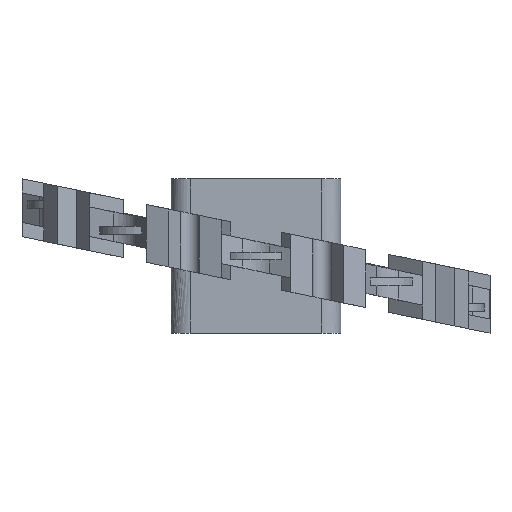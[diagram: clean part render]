
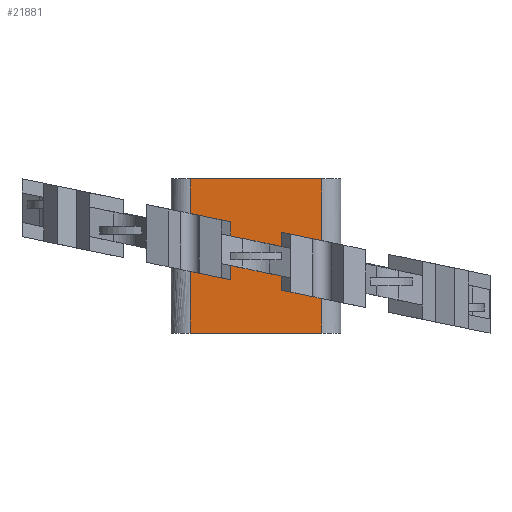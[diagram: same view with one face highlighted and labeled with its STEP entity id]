
A CAD part, left-side view. The second image highlights one B-rep face of the part: STEP entity #21881.
In plain terms, the highlighted planar face has unit normal (-1, 0, 0).
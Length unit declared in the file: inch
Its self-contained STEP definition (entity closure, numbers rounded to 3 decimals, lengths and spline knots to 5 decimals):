
#472=DIRECTION('',(0.,-0.979,-0.202));
#473=VECTOR('',#472,0.32232);
#474=CARTESIAN_POINT('',(-1.1,0.85,-0.01604));
#475=LINE('',#474,#473);
#722=DIRECTION('',(0.,-0.979,-0.202));
#723=VECTOR('',#722,0.32232);
#724=CARTESIAN_POINT('',(-1.1,-0.53431,-0.30133));
#725=LINE('',#724,#723);
#1136=DIRECTION('',(0.,-0.979,-0.202));
#1137=VECTOR('',#1136,0.32232);
#1138=CARTESIAN_POINT('',(-1.1,-0.53431,0.0811));
#1139=LINE('',#1138,#1137);
#1338=DIRECTION('',(0.,-0.979,-0.202));
#1339=VECTOR('',#1338,0.32232);
#1340=CARTESIAN_POINT('',(-1.1,0.85,0.36639));
#1341=LINE('',#1340,#1339);
#6613=DIRECTION('',(0.,0.,-1.));
#6614=VECTOR('',#6613,0.38243);
#6615=CARTESIAN_POINT('',(-1.1,-0.53431,0.0811));
#6616=LINE('',#6615,#6614);
#6617=DIRECTION('',(0.,1.,0.));
#6618=VECTOR('',#6617,1.7);
#6619=CARTESIAN_POINT('',(-1.1,-0.85,-1.));
#6620=LINE('',#6619,#6618);
#6621=DIRECTION('',(0.,0.,1.));
#6622=VECTOR('',#6621,0.98396);
#6623=CARTESIAN_POINT('',(-1.1,0.85,-1.));
#6624=LINE('',#6623,#6622);
#6625=DIRECTION('',(0.,0.,1.));
#6626=VECTOR('',#6625,0.38243);
#6627=CARTESIAN_POINT('',(-1.1,0.53431,-0.0811));
#6628=LINE('',#6627,#6626);
#6629=DIRECTION('',(0.,0.,-1.));
#6630=VECTOR('',#6629,0.63361);
#6631=CARTESIAN_POINT('',(-1.1,0.85,1.));
#6632=LINE('',#6631,#6630);
#6633=DIRECTION('',(0.,0.,-1.));
#6634=VECTOR('',#6633,0.98396);
#6635=CARTESIAN_POINT('',(-1.1,-0.85,1.));
#6636=LINE('',#6635,#6634);
#6645=DIRECTION('',(0.,0.,1.));
#6646=VECTOR('',#6645,0.63361);
#6647=CARTESIAN_POINT('',(-1.1,-0.85,-1.));
#6648=LINE('',#6647,#6646);
#6811=CARTESIAN_POINT('',(-1.1,0.85,-1.));
#6813=CARTESIAN_POINT('',(-1.1,-0.85,-1.));
#6880=DIRECTION('',(0.,-1.,0.));
#6881=VECTOR('',#6880,1.7);
#6882=CARTESIAN_POINT('',(-1.1,0.85,1.));
#6883=LINE('',#6882,#6881);
#13145=CARTESIAN_POINT('',(-1.1,0.85,1.));
#13146=VERTEX_POINT('',#13145);
#13147=CARTESIAN_POINT('',(-1.1,0.85,0.36639));
#13148=VERTEX_POINT('',#13147);
#13149=CARTESIAN_POINT('',(-1.1,-0.85,1.));
#13150=CARTESIAN_POINT('',(-1.1,-0.85,0.01604));
#13151=VERTEX_POINT('',#13149);
#13152=VERTEX_POINT('',#13150);
#13200=CARTESIAN_POINT('',(-1.1,-0.53431,0.0811));
#13202=VERTEX_POINT('',#13200);
#13203=CARTESIAN_POINT('',(-1.1,0.53431,0.30133));
#13205=VERTEX_POINT('',#13203);
#13236=VERTEX_POINT('',#6811);
#13237=VERTEX_POINT('',#6813);
#13247=CARTESIAN_POINT('',(-1.1,0.85,-0.01604));
#13248=VERTEX_POINT('',#13247);
#13249=CARTESIAN_POINT('',(-1.1,-0.85,-0.36639));
#13250=VERTEX_POINT('',#13249);
#13261=CARTESIAN_POINT('',(-1.1,-0.53431,-0.30133));
#13262=VERTEX_POINT('',#13261);
#13263=CARTESIAN_POINT('',(-1.1,0.53431,-0.0811));
#13264=VERTEX_POINT('',#13263);
#21855=CARTESIAN_POINT('',(-1.1,1.1,-1.));
#21856=DIRECTION('',(-1.,0.,0.));
#21857=DIRECTION('',(0.,-1.,0.));
#21858=AXIS2_PLACEMENT_3D('',#21855,#21856,#21857);
#21859=PLANE('',#21858);
#21861=ORIENTED_EDGE('',*,*,#21860,.T.);
#21862=ORIENTED_EDGE('',*,*,#17104,.T.);
#21864=ORIENTED_EDGE('',*,*,#21863,.F.);
#21866=ORIENTED_EDGE('',*,*,#21865,.T.);
#21868=ORIENTED_EDGE('',*,*,#21867,.T.);
#21869=ORIENTED_EDGE('',*,*,#17048,.T.);
#21870=ORIENTED_EDGE('',*,*,#21847,.T.);
#21871=ORIENTED_EDGE('',*,*,#17511,.F.);
#21873=ORIENTED_EDGE('',*,*,#21872,.F.);
#21875=ORIENTED_EDGE('',*,*,#21874,.T.);
#21877=ORIENTED_EDGE('',*,*,#21876,.T.);
#21878=ORIENTED_EDGE('',*,*,#17455,.F.);
#21879=EDGE_LOOP('',(#21861,#21862,#21864,#21866,#21868,#21869,#21870,#21871,
#21873,#21875,#21877,#21878));
#21880=FACE_OUTER_BOUND('',#21879,.F.);
#21881=ADVANCED_FACE('',(#21880),#21859,.T.);
#17048=EDGE_CURVE('',#13248,#13264,#475,.T.);
#17104=EDGE_CURVE('',#13262,#13250,#725,.T.);
#17455=EDGE_CURVE('',#13202,#13152,#1139,.T.);
#17511=EDGE_CURVE('',#13148,#13205,#1341,.T.);
#21847=EDGE_CURVE('',#13264,#13205,#6628,.T.);
#21860=EDGE_CURVE('',#13202,#13262,#6616,.T.);
#21863=EDGE_CURVE('',#13237,#13250,#6648,.T.);
#21865=EDGE_CURVE('',#13237,#13236,#6620,.T.);
#21867=EDGE_CURVE('',#13236,#13248,#6624,.T.);
#21872=EDGE_CURVE('',#13146,#13148,#6632,.T.);
#21874=EDGE_CURVE('',#13146,#13151,#6883,.T.);
#21876=EDGE_CURVE('',#13151,#13152,#6636,.T.);
